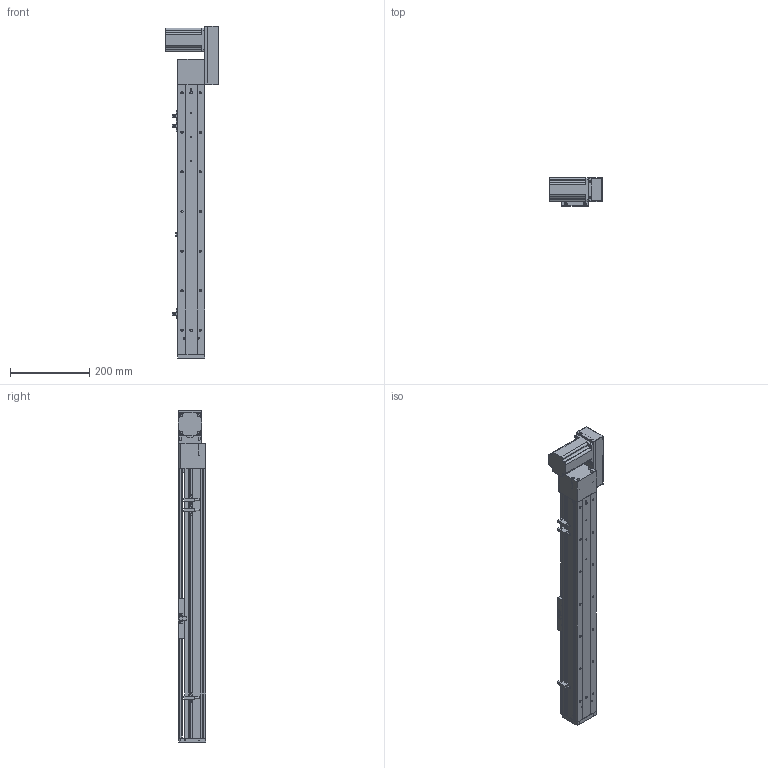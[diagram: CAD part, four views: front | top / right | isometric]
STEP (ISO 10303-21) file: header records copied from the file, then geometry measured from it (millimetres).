
FILE_DESCRIPTION (( 'STEP AP203' ), '1' );
FILE_NAME ('ML68-S500-CL.STEP', '2016-08-04T11:50:36', ( '' ), ( '' ), 'SwSTEP 2.0', 'SolidWorks 2014', '' );
FILE_SCHEMA (( 'CONFIG_CONTROL_DESIGN' ));
Length unit declared in the file: millimetre
Products named in the file (12): ML68傷啣; 60換覜結え; QS68左右折电机板罩子; ML68奻裔^ML68-S500-CL; ML68菁釱^ML68-S500-CL; 換覜ん; ML68-BR傷啣; ML68雄赽釱; ML68-S500-CL; ML68滅鳥啣盓傅輸媼; QS68酘衵殏萇儂啣; 三协电机MH201N2_預設
Assembly tree (13 placements, depth 2):
  ML68-S500-CL
    ML68菁釱^ML68-S500-CL
    ML68奻裔^ML68-S500-CL
    60換覜結え
    ML68-BR傷啣
    換覜ん  x3
    ML68傷啣
    三协电机MH201N2_預設
    ML68雄赽釱
    QS68酘衵殏萇儂啣
    QS68左右折电机板罩子
    ML68滅鳥啣盓傅輸媼
Bounding box: 133.5 x 70.5 x 838.5 mm (x, y, z)
Volume: 1544620.2 mm3; surface area: 563168.5 mm2
Topology: 13 solids, 13 shells, 903 faces, 2472 edges, 1571 vertices
Faces by surface type: cylinder 412, plane 399, cone 92
Entity records: 28636 total; most frequent: CARTESIAN_POINT 5466, DIRECTION 4686, ORIENTED_EDGE 4452, EDGE_CURVE 2226, AXIS2_PLACEMENT_3D 1691, VERTEX_POINT 1459, VECTOR 1304, LINE 1304
